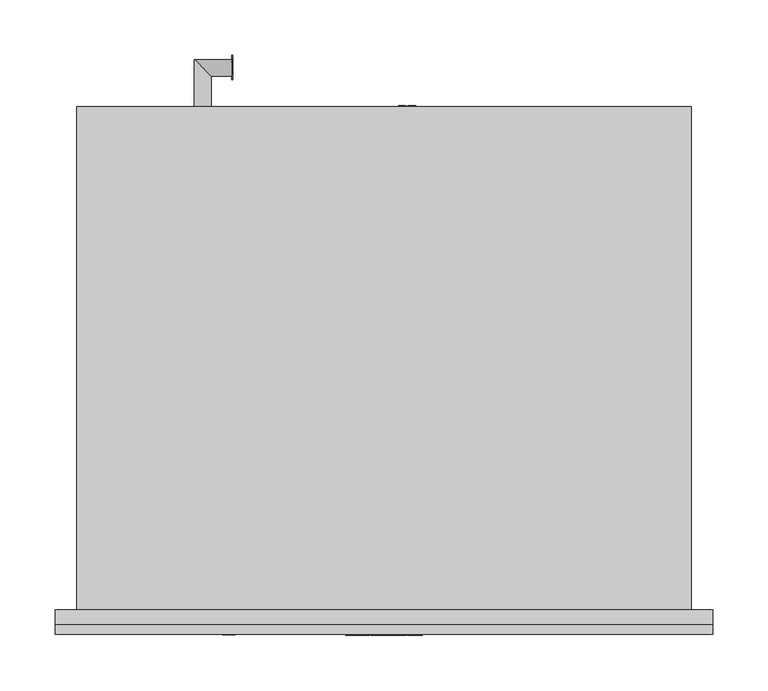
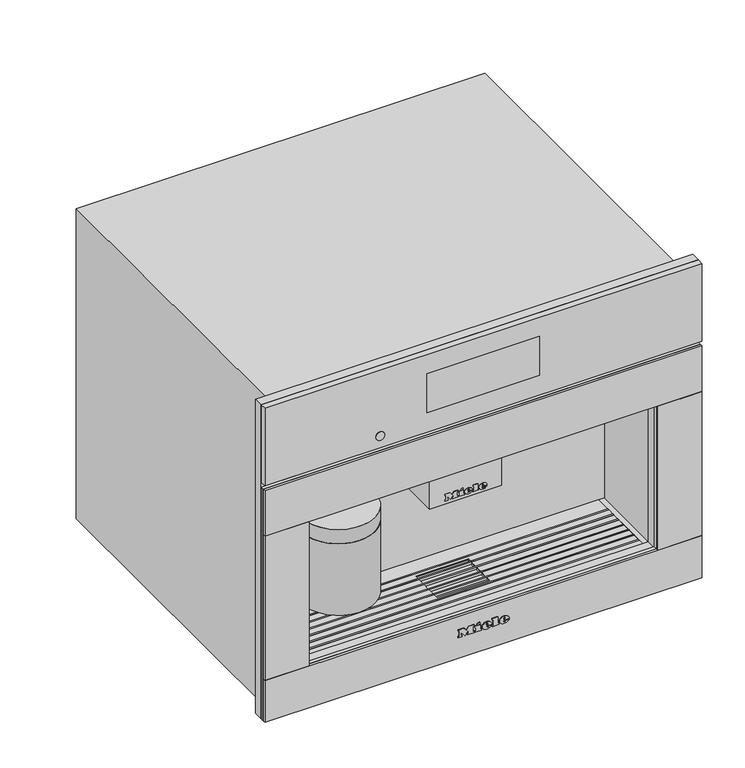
"""IFC4 building model written with IfcOpenShell, lengths in millimetres: proxy geometry, 11733910_CDN_CVA7845_GRGR : 29784530_CDN_11733910_CVA7845_GRGR."""

from ifc_helpers import new_model, si_unit, point, frame, frame_2d, origin, place, context, project, spatial, polyline, circle_curve, ellipse_curve, trimmed, segment, composite_curve, outline, extrude, faceted_brep, source, transform, mapped, element, save
from ifc_brep_helpers import plane_surface, cylinder_surface, revolved_surface, extruded_surface, advanced_brep


def specialty_equipment_ed553445(model_context):
    return source(origin(), model_context, "Body", "SolidModel", [
        extrude(outline(composite_curve([segment(trimmed(circle_curve(frame_2d((-14.0, 36.5)), 5.0), [point((-9.0, 36.5))], [point((-19.0, 36.5))], False, "CARTESIAN"), True, "CONTINUOUS"), segment(trimmed(circle_curve(frame_2d((-14.0, 36.5)), 5.0), [point((-19.0, 36.5))], [point((-9.0, 36.5))], False, "CARTESIAN"), True, "CONTINUOUS")], self_intersect=False)), frame((0.0, 0.0, 193.0), z_axis=(0.0, 0.0, 1.0), x_axis=(1.0, 0.0, 0.0)), (0.0, 0.0, 1.0), 5.0),
        extrude(outline(composite_curve([segment(trimmed(circle_curve(frame_2d((14.0, 36.5)), 5.0), [point((19.0, 36.5))], [point((9.0, 36.5))], False, "CARTESIAN"), True, "CONTINUOUS"), segment(trimmed(circle_curve(frame_2d((14.0, 36.5)), 5.0), [point((9.0, 36.5))], [point((19.0, 36.5))], False, "CARTESIAN"), True, "CONTINUOUS")], self_intersect=False)), frame((0.0, 0.0, 193.0), z_axis=(0.0, 0.0, 1.0), x_axis=(1.0, 0.0, 0.0)), (0.0, 0.0, 1.0), 5.0),
        extrude(outline(composite_curve([segment(trimmed(circle_curve(frame_2d((-156.5, 49.5)), 50.0), [point((-106.5, 49.5))], [point((-206.5, 49.5))], False, "CARTESIAN"), True, "CONTINUOUS"), segment(trimmed(circle_curve(frame_2d((-156.5, 49.5)), 50.0), [point((-206.5, 49.5))], [point((-106.5, 49.5))], False, "CARTESIAN"), True, "CONTINUOUS")], self_intersect=False)), frame((0.0, 0.0, 100.0), z_axis=(0.0, 0.0, 1.0), x_axis=(1.0, 0.0, 0.0)), (0.0, 0.0, 1.0), 103.0),
        extrude(outline(polyline([(-49.0, 95.0), (49.0, 95.0), (49.0, 20.0), (-49.0, 20.0), (-49.0, 95.0)])), frame((0.0, 0.0, 198.0), z_axis=(0.0, 0.0, 1.0), x_axis=(1.0, 0.0, 0.0)), (0.0, 0.0, 1.0), 75.0),
        extrude(outline(polyline([(455.5, 297.5), (455.5, -297.5), (4.0, -297.5), (4.0, 297.5), (455.5, 297.5)]), holes=[polyline([(273.0, 237.5), (63.0, 237.5), (63.0, -237.5), (273.0, -237.5), (273.0, 237.5)])]), frame((0.0, -13.0, 0.0), z_axis=(0.0, 1.0, 0.0), x_axis=(0.0, 0.0, 1.0)), (0.0, 0.0, 1.0), 13.0),
        extrude(outline(polyline([(480.48348, 22.0), (480.48348, 32.045631), (481.7391839, 32.045631), (481.7391839, 27.128275), (486.8895318, 32.045631), (488.6455552, 32.045631), (484.3217155, 27.9155425), (488.8025182, 22.0), (487.267224, 22.0), (483.4314411, 27.0669613), (481.7391839, 25.4531857), (481.7391839, 22.0), (480.48348, 22.0)])), frame((-138.0, 0.0, 0.0), z_axis=(1.0, 0.0, 0.0), x_axis=(0.0, 1.0, 0.0)), (0.0, 0.0, 1.0), 1.0),
        extrude(outline(polyline([(491.5420128, 22.0), (488.8025182, 32.045631), (490.0974628, 32.045631), (491.6867131, 25.4433755), (492.1772224, 23.4053092), (492.7020674, 25.207931), (494.6935352, 32.045631), (496.5599232, 32.045631), (498.0069257, 27.0890343), (499.0835937, 23.4053092), (499.5593878, 25.3845144), (501.1633533, 32.045631), (502.4582979, 32.045631), (499.7163507, 22.0), (498.3748077, 22.0), (495.9664069, 29.7500474), (495.630408, 30.8316204), (495.2527159, 29.5293182), (493.0576866, 22.0), (491.5420128, 22.0)])), frame((-138.0, 0.0, 0.0), z_axis=(1.0, 0.0, 0.0), x_axis=(0.0, 1.0, 0.0)), (0.0, 0.0, 1.0), 1.0),
        advanced_brep(
        [(-156.5, 456.0, 27.0), (-171.5, 456.0, 27.0), (-156.5, 483.5, 27.0), (-171.5, 498.5, 27.0), (-138.0, 483.5, 27.0), (-138.0, 498.5, 27.0)],
        [
            (0, 1, circle_curve(frame((-164.0, 456.0, 27.0), z_axis=(0.0, -1.0, 0.0), x_axis=(-1.0, 0.0, 0.0)), 7.5)),
            (1, 0, circle_curve(frame((-164.0, 456.0, 27.0), z_axis=(0.0, -1.0, 0.0), x_axis=(-1.0, 0.0, 0.0)), 7.5)),
            (0, 2),
            (2, 3, ellipse_curve(frame((-164.0, 491.0, 27.0), z_axis=(-0.707106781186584, -0.7071067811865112, 0.0), x_axis=(0.7071067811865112, -0.7071067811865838, 0.0)), 10.6066017, 7.5)),
            (3, 1),
            (3, 2, ellipse_curve(frame((-164.0, 491.0, 27.0), z_axis=(-0.707106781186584, -0.7071067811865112, 0.0), x_axis=(0.7071067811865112, -0.7071067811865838, 0.0)), 10.6066017, 7.5)),
            (4, 5, circle_curve(frame((-138.0, 491.0, 27.0), z_axis=(1.0, 0.0, 0.0), x_axis=(0.0, 1.0, 0.0)), 7.5)),
            (5, 4, circle_curve(frame((-138.0, 491.0, 27.0), z_axis=(1.0, 0.0, 0.0), x_axis=(0.0, 1.0, 0.0)), 7.5)),
            (2, 4),
            (5, 3),
        ],
        [
            plane_surface(frame((-164.0, 456.0, 27.0), z_axis=(0.0, -1.0, 0.0), x_axis=(0.0, 0.0, 1.0))),
            cylinder_surface(frame((-164.0, 456.0, 27.0), z_axis=(0.0, -1.0, 0.0), x_axis=(-1.0, 0.0, 0.0)), 7.5),
            plane_surface(frame((-138.0, 491.0, 27.0), z_axis=(1.0, 0.0, 0.0), x_axis=(0.0, 0.0, 1.0))),
            cylinder_surface(frame((-164.0, 491.0, 27.0), z_axis=(-1.0, 0.0, 0.0), x_axis=(0.0, 1.0, 0.0)), 7.5),
        ],
        [
            (0, [[1, 2]]),
            (1, [[-1, 3, 4, 5]]),
            (1, [[-2, -5, 6, -3]]),
            (2, [[7, 8]]),
            (3, [[-4, 9, -8, 10]]),
            (3, [[-6, -10, -7, -9]]),
        ],
    ),
        extrude(outline(polyline([(97.0, 28.8772152), (107.045631, 28.8772152), (107.045631, 21.6569179), (105.7899271, 21.6569179), (105.7899271, 27.6215114), (102.8076304, 27.6215114), (102.8076304, 21.9708439), (101.5519266, 21.9708439), (101.5519266, 27.6215114), (98.2557039, 27.6215114), (98.2557039, 21.499955), (97.0, 21.499955), (97.0, 28.8772152)])), frame((0.0, 456.0, 0.0), z_axis=(0.0, 1.0, 0.0), x_axis=(0.0, 0.0, 1.0)), (0.0, 0.0, 1.0), 1.0),
        extrude(outline(polyline([(97.0, 19.6163991), (107.045631, 19.6163991), (107.045631, 18.3606953), (98.2557039, 18.3606953), (98.2557039, 13.3378798), (97.0, 13.3378798), (97.0, 19.6163991)])), frame((0.0, 456.0, 0.0), z_axis=(0.0, 1.0, 0.0), x_axis=(0.0, 0.0, 1.0)), (0.0, 0.0, 1.0), 1.0),
        advanced_brep(
        [(55.0, 425.5, 102.0), (55.0, 410.5, 102.0), (28.5, 425.5, 102.0), (13.5, 410.5, 102.0), (28.5, 456.0, 102.0), (13.5, 456.0, 102.0)],
        [
            (0, 1, circle_curve(frame((55.0, 418.0, 102.0), z_axis=(1.0, 0.0, 0.0), x_axis=(0.0, -1.0, 0.0)), 7.5)),
            (1, 0, circle_curve(frame((55.0, 418.0, 102.0), z_axis=(1.0, 0.0, 0.0), x_axis=(0.0, -1.0, 0.0)), 7.5)),
            (0, 2),
            (2, 3, ellipse_curve(frame((21.0, 418.0, 102.0), z_axis=(0.7071067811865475, -0.7071067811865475, 0.0), x_axis=(0.7071067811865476, 0.7071067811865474, 0.0)), 10.6066017, 7.5)),
            (3, 1),
            (3, 2, ellipse_curve(frame((21.0, 418.0, 102.0), z_axis=(0.7071067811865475, -0.7071067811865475, 0.0), x_axis=(0.7071067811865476, 0.7071067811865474, 0.0)), 10.6066017, 7.5)),
            (4, 5, circle_curve(frame((21.0, 456.0, 102.0), z_axis=(0.0, 1.0, 0.0), x_axis=(-1.0, 0.0, 0.0)), 7.5)),
            (5, 4, circle_curve(frame((21.0, 456.0, 102.0), z_axis=(0.0, 1.0, 0.0), x_axis=(-1.0, 0.0, 0.0)), 7.5)),
            (2, 4),
            (5, 3),
        ],
        [
            plane_surface(frame((55.0, 418.0, 102.0), z_axis=(1.0, 0.0, 0.0), x_axis=(0.0, 0.0, 1.0))),
            cylinder_surface(frame((55.0, 418.0, 102.0), z_axis=(1.0, 0.0, 0.0), x_axis=(0.0, -1.0, 0.0)), 7.5),
            plane_surface(frame((21.0, 456.0, 102.0), z_axis=(0.0, 1.0, 0.0), x_axis=(0.0, 0.0, 1.0))),
            cylinder_surface(frame((21.0, 418.0, 102.0), z_axis=(0.0, -1.0, 0.0), x_axis=(-1.0, 0.0, 0.0)), 7.5),
        ],
        [
            (0, [[1, 2]]),
            (1, [[-1, 3, 4, 5]]),
            (1, [[-2, -5, 6, -3]]),
            (2, [[7, 8]]),
            (3, [[-4, 9, -8, 10]]),
            (3, [[-6, -10, -7, -9]]),
        ],
    ),
        advanced_brep(
        [(-110.0, 49.5, 252.0), (-203.0, 49.5, 252.0), (-206.5, 49.5, 223.5), (-106.5, 49.5, 223.5), (-110.0, 49.5, 273.0), (-203.0, 49.5, 273.0), (-156.5, 49.5, 273.0), (-106.5, 49.5, 203.0), (-206.5, 49.5, 203.0), (-156.5, 49.5, 203.0)],
        [
            (0, 1, circle_curve(frame((-156.5, 49.5, 252.0), z_axis=(0.0, 0.0, -1.0), x_axis=(-1.0, 0.0, 0.0)), 46.5)),
            (1, 2, circle_curve(frame((-206.7961166, 49.5, 238.0012775), z_axis=(0.0, 1.0, 0.0), x_axis=(-1.0, 0.0, 0.0)), 14.5043005)),
            (2, 3, circle_curve(frame((-156.5, 49.5, 223.5), z_axis=(0.0, 0.0, 1.0), x_axis=(-1.0, 0.0, 0.0)), 50.0)),
            (3, 0, circle_curve(frame((-106.2038834, 49.5, 238.0012775), z_axis=(0.0, 1.0, 0.0), x_axis=(1.0, 0.0, 0.0)), 14.5043005)),
            (4, 5, circle_curve(frame((-156.5, 49.5, 273.0), z_axis=(0.0, 0.0, -1.0), x_axis=(-1.0, 0.0, 0.0)), 46.5)),
            (5, 1),
            (0, 4),
            (6, 4),
            (4, 5, circle_curve(frame((-156.5, 49.5, 273.0), z_axis=(0.0, 0.0, 1.0), x_axis=(-1.0, 0.0, 0.0)), 46.5)),
            (5, 6),
            (7, 8, circle_curve(frame((-156.5, 49.5, 203.0), z_axis=(0.0, 0.0, -1.0), x_axis=(-1.0, 0.0, 0.0)), 50.0)),
            (8, 9),
            (9, 7),
            (8, 7, circle_curve(frame((-156.5, 49.5, 203.0), z_axis=(0.0, 0.0, -1.0), x_axis=(-1.0, 0.0, 0.0)), 50.0)),
            (2, 8),
            (7, 3),
            (2, 3, circle_curve(frame((-156.5, 49.5, 223.5), z_axis=(0.0, 0.0, -1.0), x_axis=(-1.0, 0.0, 0.0)), 50.0)),
            (1, 0, circle_curve(frame((-156.5, 49.5, 252.0), z_axis=(0.0, 0.0, -1.0), x_axis=(-1.0, 0.0, 0.0)), 46.5)),
        ],
        [
            revolved_surface(trimmed(ellipse_curve(frame((-206.7961166, 49.5, 238.0012775), z_axis=(0.0, -1.0, 0.0), x_axis=(-1.0, 0.0, 0.0)), 14.5043005, 14.5043005), [point((-206.5, 49.5, 223.5))], [point((-203.0, 49.5, 252.0))], True, "CARTESIAN"), (-156.5, 49.5, 388.7361736), (0.0, 0.0, 1.0)),
            cylinder_surface(frame((-156.5, 49.5, 388.7361736), z_axis=(0.0, 0.0, 1.0), x_axis=(-1.0, 0.0, 0.0)), 46.5),
            plane_surface(frame((-156.5, 49.5, 273.0), z_axis=(0.0, 0.0, 1.0), x_axis=(-1.0, 0.0, 0.0))),
            plane_surface(frame((-156.5, 49.5, 203.0), z_axis=(0.0, 0.0, -1.0), x_axis=(-1.0, 0.0, 0.0))),
            cylinder_surface(frame((-156.5, 49.5, 388.7361736), z_axis=(0.0, 0.0, 1.0), x_axis=(-1.0, 0.0, 0.0)), 50.0),
        ],
        [
            (0, [[1, 2, 3, 4]]),
            (1, [[5, 6, -1, 7]]),
            (2, [[8, 9, 10]]),
            (3, [[11, 12, 13]]),
            (3, [[14, -13, -12]]),
            (4, [[-3, 15, -11, 16]]),
            (4, [[17, -16, -14, -15]]),
            (0, [[18, -4, -17, -2]]),
            (1, [[-9, -7, -18, -6]]),
            (2, [[-10, -5, -8]]),
        ],
    ),
        faceted_brep([(229.5, 82.0925571, 60.0), (229.5, 80.0925571, 60.0), (-229.5, 80.0925571, 60.0), (-229.5, 82.0925571, 60.0), (229.5, 70.0550731, 60.0), (229.5, 68.0550731, 60.0), (-229.5, 68.0550731, 60.0), (-229.5, 70.0550731, 60.0), (229.5, 58.0175891, 60.0), (229.5, 56.0175891, 60.0), (-229.5, 56.0175891, 60.0), (-229.5, 58.0175891, 60.0), (229.5, 45.9801052, 60.0), (229.5, 43.9801052, 60.0), (-229.5, 43.9801052, 60.0), (-229.5, 45.9801052, 60.0), (229.5, 33.9426212, 60.0), (229.5, 31.9426212, 60.0), (-229.5, 31.9426212, 60.0), (-229.5, 33.9426212, 60.0), (229.5, 21.9776522, 60.0), (229.5, 19.9776522, 60.0), (-229.5, 19.9776522, 60.0), (-229.5, 21.9776522, 60.0), (229.5, 10.0, 60.0), (229.5, 8.0, 60.0), (-229.5, 8.0, 60.0), (-229.5, 10.0, 60.0), (-229.5, 45.9801052, 62.0), (-36.0, 45.9801052, 62.0), (-36.0, 45.9801052, 63.0), (-229.5, 45.9801052, 63.0), (-229.5, 45.9801052, 63.5), (229.5, 45.9801052, 63.5), (229.5, 45.9801052, 63.0), (36.0, 45.9801052, 63.0), (36.0, 45.9801052, 62.0), (229.5, 45.9801052, 62.0), (229.5, 19.9776522, 62.0), (229.5, 10.0, 62.0), (-229.5, 10.0, 62.0), (-229.5, 19.9776522, 62.0), (229.5, 43.9801052, 62.0), (229.5, 33.9426212, 62.0), (36.0, 33.9426212, 62.0), (36.0, 43.9801052, 62.0), (229.5, 56.0175891, 62.0), (36.0, 56.0175891, 62.0), (229.5, 68.0550731, 62.0), (229.5, 58.0175891, 62.0), (36.0, 58.0175891, 62.0), (36.0, 68.0550731, 62.0), (-229.5, 33.9426212, 62.0), (-229.5, 43.9801052, 62.0), (-36.0, 43.9801052, 62.0), (-36.0, 33.9426212, 62.0), (-229.5, 56.0175891, 62.0), (-36.0, 56.0175891, 62.0), (-229.5, 58.0175891, 62.0), (-229.5, 68.0550731, 62.0), (-36.0, 68.0550731, 62.0), (-36.0, 58.0175891, 62.0), (-229.5, 104.5, 62.0), (229.5, 104.5, 62.0), (229.5, 82.0925571, 62.0), (-229.5, 82.0925571, 62.0), (36.0, 76.0, 62.0), (-36.0, 76.0, 62.0), (-36.0, 70.0550731, 62.0), (-229.5, 70.0550731, 62.0), (-229.5, 80.0925571, 62.0), (229.5, 80.0925571, 62.0), (229.5, 70.0550731, 62.0), (36.0, 70.0550731, 62.0), (229.5, 0.0, 62.0), (-229.5, 0.0, 62.0), (-229.5, 8.0, 62.0), (229.5, 8.0, 62.0), (-36.0, 25.0, 62.0), (36.0, 25.0, 62.0), (36.0, 31.9426212, 62.0), (229.5, 31.9426212, 62.0), (229.5, 21.9776522, 62.0), (-229.5, 21.9776522, 62.0), (-229.5, 31.9426212, 62.0), (-36.0, 31.9426212, 62.0), (229.5, 104.5, 63.0), (-229.5, 104.5, 63.0), (-229.5, 82.0925571, 63.0), (229.5, 82.0925571, 63.0), (-229.5, 0.0, 63.0), (229.5, 0.0, 63.0), (229.5, 8.0, 63.0), (-229.5, 8.0, 63.0), (-36.0, 76.0, 63.0), (36.0, 76.0, 63.0), (36.0, 70.0550731, 63.0), (229.5, 70.0550731, 63.0), (229.5, 80.0925571, 63.0), (-229.5, 80.0925571, 63.0), (-229.5, 70.0550731, 63.0), (-36.0, 70.0550731, 63.0), (36.0, 25.0, 63.0), (-36.0, 25.0, 63.0), (-36.0, 31.9426212, 63.0), (-229.5, 31.9426212, 63.0), (-229.5, 21.9776522, 63.0), (229.5, 21.9776522, 63.0), (229.5, 31.9426212, 63.0), (36.0, 31.9426212, 63.0), (-229.5, 19.9776522, 63.0), (-229.5, 10.0, 63.0), (229.5, 10.0, 63.0), (229.5, 19.9776522, 63.0), (-229.5, 43.9801052, 63.0), (-229.5, 33.9426212, 63.0), (-36.0, 33.9426212, 63.0), (-36.0, 43.9801052, 63.0), (-229.5, 56.0175891, 63.0), (-36.0, 56.0175891, 63.0), (-229.5, 68.0550731, 63.0), (-229.5, 58.0175891, 63.0), (-36.0, 58.0175891, 63.0), (-36.0, 68.0550731, 63.0), (229.5, 33.9426212, 63.0), (229.5, 43.9801052, 63.0), (36.0, 43.9801052, 63.0), (36.0, 33.9426212, 63.0), (229.5, 56.0175891, 63.0), (36.0, 56.0175891, 63.0), (229.5, 58.0175891, 63.0), (229.5, 68.0550731, 63.0), (36.0, 68.0550731, 63.0), (36.0, 58.0175891, 63.0), (-229.5, 8.0, 63.5), (-229.5, 10.0, 63.5), (-229.5, 19.9776522, 63.5), (-229.5, 21.9776522, 63.5), (-229.5, 31.9426212, 63.5), (-229.5, 33.9426212, 63.5), (-229.5, 43.9801052, 63.5), (-229.5, 56.0175891, 63.5), (-229.5, 58.0175891, 63.5), (-229.5, 68.0550731, 63.5), (-229.5, 70.0550731, 63.5), (-229.5, 80.0925571, 63.5), (-229.5, 82.0925571, 63.5), (229.5, 82.0925571, 63.5), (229.5, 80.0925571, 63.5), (229.5, 70.0550731, 63.5), (229.5, 68.0550731, 63.5), (229.5, 58.0175891, 63.5), (229.5, 56.0175891, 63.5), (229.5, 43.9801052, 63.5), (229.5, 33.9426212, 63.5), (229.5, 31.9426212, 63.5), (229.5, 21.9776522, 63.5), (229.5, 19.9776522, 63.5), (229.5, 10.0, 63.5), (229.5, 8.0, 63.5)], [[[0, 1, 2, 3]], [[4, 5, 6, 7]], [[8, 9, 10, 11]], [[12, 13, 14, 15]], [[16, 17, 18, 19]], [[20, 21, 22, 23]], [[24, 25, 26, 27]], [[12, 15, 28, 29, 30, 31, 32, 33, 34, 35, 36, 37]], [[38, 39, 40, 41]], [[42, 43, 44, 45]], [[46, 37, 36, 47]], [[48, 49, 50, 51]], [[52, 53, 54, 55]], [[28, 56, 57, 29]], [[58, 59, 60, 61]], [[62, 63, 64, 65]], [[66, 67, 68, 69, 70, 71, 72, 73]], [[74, 75, 76, 77]], [[78, 79, 80, 81, 82, 83, 84, 85]], [[86, 87, 88, 89]], [[90, 91, 92, 93]], [[94, 95, 96, 97, 98, 99, 100, 101]], [[102, 103, 104, 105, 106, 107, 108, 109]], [[110, 111, 112, 113]], [[114, 115, 116, 117]], [[118, 31, 30, 119]], [[120, 121, 122, 123]], [[124, 125, 126, 127]], [[34, 128, 129, 35]], [[130, 131, 132, 133]], [[63, 62, 87, 86]], [[87, 62, 65, 3, 2, 70, 69, 7, 6, 59, 58, 11, 10, 56, 28, 15, 14, 53, 52, 19, 18, 84, 83, 23, 22, 41, 40, 27, 26, 76, 75, 90, 93, 134, 135, 111, 110, 136, 137, 106, 105, 138, 139, 115, 114, 140, 32, 31, 118, 141, 142, 121, 120, 143, 144, 100, 99, 145, 146, 88]], [[75, 74, 91, 90]], [[63, 86, 89, 147, 148, 98, 97, 149, 150, 131, 130, 151, 152, 128, 34, 33, 153, 125, 124, 154, 155, 108, 107, 156, 157, 113, 112, 158, 159, 92, 91, 74, 77, 25, 24, 39, 38, 21, 20, 82, 81, 17, 16, 43, 42, 13, 12, 37, 46, 9, 8, 49, 48, 5, 4, 72, 71, 1, 0, 64]], [[66, 95, 94, 67]], [[55, 54, 117, 116]], [[29, 57, 119, 30]], [[61, 60, 123, 122]], [[67, 94, 101, 68]], [[103, 78, 85, 104]], [[78, 103, 102, 79]], [[45, 44, 127, 126]], [[47, 36, 35, 129]], [[51, 50, 133, 132]], [[95, 66, 73, 96]], [[79, 102, 109, 80]], [[158, 135, 134, 159]], [[156, 137, 136, 157]], [[154, 139, 138, 155]], [[33, 32, 140, 153]], [[151, 142, 141, 152]], [[149, 144, 143, 150]], [[147, 146, 145, 148]], [[24, 27, 40, 39]], [[135, 158, 112, 111]], [[26, 25, 77, 76]], [[159, 134, 93, 92]], [[20, 23, 83, 82]], [[137, 156, 107, 106]], [[22, 21, 38, 41]], [[157, 136, 110, 113]], [[16, 19, 52, 55, 116, 115, 139, 154, 124, 127, 44, 43]], [[18, 17, 81, 80, 109, 108, 155, 138, 105, 104, 85, 84]], [[14, 13, 42, 45, 126, 125, 153, 140, 114, 117, 54, 53]], [[8, 11, 58, 61, 122, 121, 142, 151, 130, 133, 50, 49]], [[10, 9, 46, 47, 129, 128, 152, 141, 118, 119, 57, 56]], [[4, 7, 69, 68, 101, 100, 144, 149, 97, 96, 73, 72]], [[6, 5, 48, 51, 132, 131, 150, 143, 120, 123, 60, 59]], [[0, 3, 65, 64]], [[146, 147, 89, 88]], [[2, 1, 71, 70]], [[148, 145, 99, 98]]]),
        faceted_brep([(-278.0, 456.0, 0.0), (-278.0, 0.0, 0.0), (-278.0, 0.0, 446.0), (-278.0, 456.0, 446.0), (278.0, 456.0, 0.0), (278.0, 456.0, 446.0), (278.0, 0.0, 446.0), (278.0, 0.0, 0.0), (55.0, 456.0, 133.0), (-22.0, 456.0, 133.0), (-22.0, 456.0, 89.0), (35.0, 456.0, 66.0), (55.0, 456.0, 66.0), (-36.0, 76.0, 58.0), (36.0, 76.0, 58.0), (36.0, 76.0, 62.0), (-36.0, 76.0, 62.0), (36.0, 25.0, 58.0), (-36.0, 25.0, 58.0), (-36.0, 25.0, 62.0), (36.0, 25.0, 62.0), (237.5, 0.0, 273.0), (237.5, 0.0, 63.0), (229.5, 0.0, 63.0), (229.5, 0.0, 62.0), (-229.5, 0.0, 62.0), (-229.5, 0.0, 63.0), (-237.5, 0.0, 63.0), (-237.5, 0.0, 273.0), (237.5, 104.5, 273.0), (-237.5, 104.5, 273.0), (-237.5, 104.5, 63.0), (-229.5, 104.5, 63.0), (-229.5, 104.5, 62.0), (229.5, 104.5, 62.0), (229.5, 104.5, 63.0), (237.5, 104.5, 63.0), (-22.0, 400.0, 133.0), (55.0, 400.0, 133.0), (55.0, 400.0, 66.0), (35.0, 400.0, 66.0), (-22.0, 400.0, 89.0)], [[[0, 1, 2, 3]], [[4, 5, 6, 7]], [[0, 3, 5, 4], [8, 9, 10, 11, 12]], [[13, 14, 15, 16]], [[17, 18, 19, 20]], [[3, 2, 6, 5]], [[2, 1, 7, 6], [21, 22, 23, 24, 25, 26, 27, 28]], [[1, 0, 4, 7]], [[29, 30, 31, 32, 33, 34, 35, 36]], [[29, 36, 22, 21]], [[22, 36, 35, 23]], [[31, 27, 26, 32]], [[31, 30, 28, 27]], [[30, 29, 21, 28]], [[34, 33, 25, 24], [16, 15, 20, 19]], [[25, 33, 32, 26]], [[34, 24, 23, 35]], [[14, 13, 18, 17]], [[18, 13, 16, 19]], [[14, 17, 20, 15]], [[37, 38, 39, 40, 41]], [[38, 37, 9, 8]], [[39, 38, 8, 12]], [[40, 39, 12, 11]], [[41, 40, 11, 10]], [[37, 41, 10, 9]]]),
        advanced_brep(
        [(27.088, -23.0, 36.7018), (27.088, -23.0, 37.8532), (34.7146, -23.0, 37.8532), (21.445, -23.0, 37.8532), (24.58, -23.0, 34.0), (34.5208, -23.0, 36.7018), (31.078, -23.0, 36.7018), (28.3648, -23.0, 35.425), (27.088, -23.0, 39.3124), (27.088, -23.0, 40.555), (29.0374, -23.0, 40.555), (29.0374, -23.0, 39.3124), (27.088, -22.0, 36.7018), (28.3648, -22.0, 35.425), (31.078, -22.0, 36.7018), (34.5208, -22.0, 36.7018), (24.58, -22.0, 34.0), (21.445, -22.0, 37.8532), (34.7146, -22.0, 37.8532), (27.088, -22.0, 37.8532), (27.088, -22.0, 39.3124), (29.0374, -22.0, 39.3124), (29.0374, -22.0, 40.555), (27.088, -22.0, 40.555)],
        [
            (0, 1),
            (1, 2),
            (2, 3, ellipse_curve(frame((28.0798, -23.0, 37.8532), z_axis=(0.0, -1.0, 0.0), x_axis=(-1.0, 0.0, 0.0)), 6.6348, 5.4834)),
            (3, 4, circle_curve(frame((25.8568622, -23.0, 38.2408), z_axis=(0.0, -1.0, 0.0), x_axis=(0.0, 0.0, -1.0)), 4.4288556)),
            (4, 5, circle_curve(frame((27.9469808, -23.0, 41.2504), z_axis=(0.0, -1.0, 0.0), x_axis=(0.0, 0.0, -1.0)), 7.9940516)),
            (5, 6),
            (6, 7, circle_curve(frame((28.9220588, -23.0, 37.762), z_axis=(0.0, 1.0, 0.0), x_axis=(0.0, 0.0, -1.0)), 2.4025208)),
            (7, 0, circle_curve(frame((28.3648, -23.0, 36.7018), z_axis=(0.0, 1.0, 0.0), x_axis=(0.0, 0.0, -1.0)), 1.2768)),
            (8, 9),
            (9, 10, circle_curve(frame((28.0627, -23.0, 40.555), z_axis=(0.0, 1.0, 0.0), x_axis=(0.0, 0.0, -1.0)), 0.9747)),
            (10, 11),
            (11, 8),
            (12, 13, circle_curve(frame((28.3648, -22.0, 36.7018), z_axis=(0.0, -1.0, 0.0), x_axis=(0.0, 0.0, -1.0)), 1.2768)),
            (13, 14, circle_curve(frame((28.9220588, -22.0, 37.762), z_axis=(0.0, -1.0, 0.0), x_axis=(0.0, 0.0, -1.0)), 2.4025208)),
            (14, 15),
            (15, 16, circle_curve(frame((27.9469808, -22.0, 41.2504), z_axis=(0.0, 1.0, 0.0), x_axis=(0.0, 0.0, -1.0)), 7.9940516)),
            (16, 17, circle_curve(frame((25.8568622, -22.0, 38.2408), z_axis=(0.0, 1.0, 0.0), x_axis=(0.0, 0.0, -1.0)), 4.4288556)),
            (17, 18, ellipse_curve(frame((28.0798, -22.0, 37.8532), z_axis=(0.0, 1.0, 0.0), x_axis=(-1.0, 0.0, 0.0)), 6.6348, 5.4834)),
            (18, 19),
            (19, 12),
            (20, 21),
            (21, 22),
            (22, 23, circle_curve(frame((28.0627, -22.0, 40.555), z_axis=(0.0, -1.0, 0.0), x_axis=(0.0, 0.0, -1.0)), 0.9747)),
            (23, 20),
            (0, 12),
            (19, 1),
            (18, 2),
            (5, 15),
            (14, 6),
            (17, 3),
            (13, 7),
            (16, 4),
            (8, 20),
            (23, 9),
            (22, 10),
            (21, 11),
        ],
        [
            plane_surface(frame((27.088, -23.0, 37.8532), z_axis=(0.0, -1.0, 0.0), x_axis=(0.0, 0.0, 1.0))),
            plane_surface(frame((27.088, -22.0, 37.8532), z_axis=(0.0, 1.0, 0.0), x_axis=(0.0, 0.0, -1.0))),
            plane_surface(frame((27.088, -23.0, 36.7018), z_axis=(1.0, 0.0, 0.0), x_axis=(0.0, 1.0, 0.0))),
            plane_surface(frame((27.088, -23.0, 37.8532), z_axis=(0.0, 0.0, -1.0), x_axis=(0.0, 1.0, 0.0))),
            plane_surface(frame((34.5208, -23.0, 36.7018), z_axis=(0.0, 0.0, 1.0), x_axis=(0.0, 1.0, 0.0))),
            extruded_surface(trimmed(ellipse_curve(frame((28.0798, -21.0, 37.8532), z_axis=(0.0, -1.0, 0.0), x_axis=(-1.0, 0.0, 0.0)), 6.6348, 5.4834), [point((34.7146, -21.0, 37.8532))], [point((21.445, -21.0, 37.8532))], True, "CARTESIAN"), (0.0, -1.0, 0.0), 1.0),
            revolved_surface(polyline([(28.9220588, -22.0, 35.3594792), (28.9220588, -23.0, 35.3594792)]), (28.9220588, -22.0, 37.762), (0.0, 1.0, 0.0)),
            revolved_surface(polyline([(28.3648, -22.0, 35.425), (28.3648, -23.0, 35.425)]), (28.3648, -22.0, 36.7018), (0.0, 1.0, 0.0)),
            cylinder_surface(frame((25.8568622, -22.0, 38.2408), z_axis=(0.0, -1.0, 0.0), x_axis=(0.0, 0.0, -1.0)), 4.4288556),
            cylinder_surface(frame((27.9469808, -22.0, 41.2504), z_axis=(0.0, -1.0, 0.0), x_axis=(0.0, 0.0, -1.0)), 7.9940516),
            plane_surface(frame((27.088, -23.0, 39.3124), z_axis=(1.0, 0.0, 0.0), x_axis=(0.0, 1.0, 0.0))),
            revolved_surface(polyline([(28.0627, -22.0, 39.5803), (28.0627, -23.0, 39.5803)]), (28.0627, -22.0, 40.555), (0.0, 1.0, 0.0)),
            plane_surface(frame((29.0374, -23.0, 40.555), z_axis=(-1.0, 0.0, 0.0), x_axis=(0.0, 1.0, 0.0))),
            plane_surface(frame((29.0374, -23.0, 39.3124), z_axis=(0.0, 0.0, 1.0), x_axis=(0.0, 1.0, 0.0))),
        ],
        [
            (0, [[1, 2, 3, 4, 5, 6, 7, 8], [9, 10, 11, 12]]),
            (1, [[13, 14, 15, 16, 17, 18, 19, 20], [21, 22, 23, 24]]),
            (2, [[-1, 25, -20, 26]]),
            (3, [[-2, -26, -19, 27]]),
            (4, [[-6, 28, -15, 29]]),
            (5, [[-3, -27, -18, 30]]),
            (6, [[-7, -29, -14, 31]]),
            (7, [[-8, -31, -13, -25]]),
            (8, [[-4, -30, -17, 32]]),
            (9, [[-5, -32, -16, -28]]),
            (10, [[-9, 33, -24, 34]]),
            (11, [[-10, -34, -23, 35]]),
            (12, [[-11, -35, -22, 36]]),
            (13, [[-12, -36, -21, -33]]),
        ],
    ),
        advanced_brep(
        [(3.2962, -23.0, 36.7018), (3.2962, -23.0, 37.8532), (10.9228, -23.0, 37.8532), (-2.3468, -23.0, 37.8532), (0.7882, -23.0, 34.0), (10.729, -23.0, 36.7018), (7.2862, -23.0, 36.7018), (4.573, -23.0, 35.425), (3.2962, -23.0, 39.3124), (3.2962, -23.0, 40.555), (5.2456, -23.0, 40.555), (5.2456, -23.0, 39.3124), (3.2962, -22.0, 36.7018), (4.573, -22.0, 35.425), (7.2862, -22.0, 36.7018), (10.729, -22.0, 36.7018), (0.7882, -22.0, 34.0), (-2.3468, -22.0, 37.8532), (10.9228, -22.0, 37.8532), (3.2962, -22.0, 37.8532), (3.2962, -22.0, 39.3124), (5.2456, -22.0, 39.3124), (5.2456, -22.0, 40.555), (3.2962, -22.0, 40.555)],
        [
            (0, 1),
            (1, 2),
            (2, 3, ellipse_curve(frame((4.288, -23.0, 37.8532), z_axis=(0.0, -1.0, 0.0), x_axis=(-1.0, 0.0, 0.0)), 6.6348, 5.4834)),
            (3, 4, circle_curve(frame((2.0650622, -23.0, 38.2408), z_axis=(0.0, -1.0, 0.0), x_axis=(0.0, 0.0, -1.0)), 4.4288556)),
            (4, 5, circle_curve(frame((4.1551808, -23.0, 41.2504), z_axis=(0.0, -1.0, 0.0), x_axis=(0.0, 0.0, -1.0)), 7.9940516)),
            (5, 6),
            (6, 7, circle_curve(frame((5.1302588, -23.0, 37.762), z_axis=(0.0, 1.0, 0.0), x_axis=(0.0, 0.0, -1.0)), 2.4025208)),
            (7, 0, circle_curve(frame((4.573, -23.0, 36.7018), z_axis=(0.0, 1.0, 0.0), x_axis=(0.0, 0.0, -1.0)), 1.2768)),
            (8, 9),
            (9, 10, circle_curve(frame((4.2709, -23.0, 40.555), z_axis=(0.0, 1.0, 0.0), x_axis=(0.0, 0.0, -1.0)), 0.9747)),
            (10, 11),
            (11, 8),
            (12, 13, circle_curve(frame((4.573, -22.0, 36.7018), z_axis=(0.0, -1.0, 0.0), x_axis=(0.0, 0.0, -1.0)), 1.2768)),
            (13, 14, circle_curve(frame((5.1302588, -22.0, 37.762), z_axis=(0.0, -1.0, 0.0), x_axis=(0.0, 0.0, -1.0)), 2.4025208)),
            (14, 15),
            (15, 16, circle_curve(frame((4.1551808, -22.0, 41.2504), z_axis=(0.0, 1.0, 0.0), x_axis=(0.0, 0.0, -1.0)), 7.9940516)),
            (16, 17, circle_curve(frame((2.0650622, -22.0, 38.2408), z_axis=(0.0, 1.0, 0.0), x_axis=(0.0, 0.0, -1.0)), 4.4288556)),
            (17, 18, ellipse_curve(frame((4.288, -22.0, 37.8532), z_axis=(0.0, 1.0, 0.0), x_axis=(-1.0, 0.0, 0.0)), 6.6348, 5.4834)),
            (18, 19),
            (19, 12),
            (20, 21),
            (21, 22),
            (22, 23, circle_curve(frame((4.2709, -22.0, 40.555), z_axis=(0.0, -1.0, 0.0), x_axis=(0.0, 0.0, -1.0)), 0.9747)),
            (23, 20),
            (0, 12),
            (19, 1),
            (18, 2),
            (5, 15),
            (14, 6),
            (17, 3),
            (13, 7),
            (16, 4),
            (8, 20),
            (23, 9),
            (22, 10),
            (21, 11),
        ],
        [
            plane_surface(frame((3.2962, -23.0, 37.8532), z_axis=(0.0, -1.0, 0.0), x_axis=(0.0, 0.0, 1.0))),
            plane_surface(frame((3.2962, -22.0, 37.8532), z_axis=(0.0, 1.0, 0.0), x_axis=(0.0, 0.0, -1.0))),
            plane_surface(frame((3.2962, -23.0, 36.7018), z_axis=(1.0, 0.0, 0.0), x_axis=(0.0, 1.0, 0.0))),
            plane_surface(frame((3.2962, -23.0, 37.8532), z_axis=(0.0, 0.0, -1.0), x_axis=(0.0, 1.0, 0.0))),
            plane_surface(frame((10.729, -23.0, 36.7018), z_axis=(0.0, 0.0, 1.0), x_axis=(0.0, 1.0, 0.0))),
            extruded_surface(trimmed(ellipse_curve(frame((4.288, -21.0, 37.8532), z_axis=(0.0, -1.0, 0.0), x_axis=(-1.0, 0.0, 0.0)), 6.6348, 5.4834), [point((10.9228, -21.0, 37.8532))], [point((-2.3468, -21.0, 37.8532))], True, "CARTESIAN"), (0.0, -1.0, 0.0), 1.0),
            revolved_surface(polyline([(5.1302588, -22.0, 35.3594792), (5.1302588, -23.0, 35.3594792)]), (5.1302588, -22.0, 37.762), (0.0, 1.0, 0.0)),
            revolved_surface(polyline([(4.573, -22.0, 35.425), (4.573, -23.0, 35.425)]), (4.573, -22.0, 36.7018), (0.0, 1.0, 0.0)),
            cylinder_surface(frame((2.0650622, -22.0, 38.2408), z_axis=(0.0, -1.0, 0.0), x_axis=(0.0, 0.0, -1.0)), 4.4288556),
            cylinder_surface(frame((4.1551808, -22.0, 41.2504), z_axis=(0.0, -1.0, 0.0), x_axis=(0.0, 0.0, -1.0)), 7.9940516),
            plane_surface(frame((3.2962, -23.0, 39.3124), z_axis=(1.0, 0.0, 0.0), x_axis=(0.0, 1.0, 0.0))),
            revolved_surface(polyline([(4.2709, -22.0, 39.5803), (4.2709, -23.0, 39.5803)]), (4.2709, -22.0, 40.555), (0.0, 1.0, 0.0)),
            plane_surface(frame((5.2456, -23.0, 40.555), z_axis=(-1.0, 0.0, 0.0), x_axis=(0.0, 1.0, 0.0))),
            plane_surface(frame((5.2456, -23.0, 39.3124), z_axis=(0.0, 0.0, 1.0), x_axis=(0.0, 1.0, 0.0))),
        ],
        [
            (0, [[1, 2, 3, 4, 5, 6, 7, 8], [9, 10, 11, 12]]),
            (1, [[13, 14, 15, 16, 17, 18, 19, 20], [21, 22, 23, 24]]),
            (2, [[-1, 25, -20, 26]]),
            (3, [[-2, -26, -19, 27]]),
            (4, [[-6, 28, -15, 29]]),
            (5, [[-3, -27, -18, 30]]),
            (6, [[-7, -29, -14, 31]]),
            (7, [[-8, -31, -13, -25]]),
            (8, [[-4, -30, -17, 32]]),
            (9, [[-5, -32, -16, -28]]),
            (10, [[-9, 33, -24, 34]]),
            (11, [[-10, -34, -23, 35]]),
            (12, [[-11, -35, -22, 36]]),
            (13, [[-12, -36, -21, -33]]),
        ],
    ),
        extrude(outline(polyline([(44.7274, -9.164), (42.8806, -8.2976), (44.6818, -4.433), (46.5286, -5.288), (44.7274, -9.164)])), frame((0.0, -23.0, 0.0), z_axis=(0.0, 1.0, 0.0), x_axis=(0.0, 0.0, 1.0)), (0.0, 0.0, 1.0), 1.0),
        extrude(outline(polyline([(42.6298, -11.9798), (40.5892, -11.9798), (40.5892, -10.6232), (35.9152, -10.6232), (35.9152, -11.9798), (34.0, -11.9798), (34.0, -2.9852), (35.9152, -2.9852), (35.9152, -4.3076), (42.6298, -4.3076), (42.6298, -11.9798)])), frame((0.0, -23.0, 0.0), z_axis=(0.0, 1.0, 0.0), x_axis=(0.0, 0.0, 1.0)), (0.0, 0.0, 1.0), 1.0),
        extrude(outline(polyline([(43.5418, 11.5612), (43.5418, 12.9292), (35.9152, 12.9292), (35.9152, 11.5612), (34.0, 11.5612), (34.0, 20.8066), (35.9152, 20.8066), (35.9152, 19.4044), (45.4, 19.4044), (45.4, 11.5612), (43.5418, 11.5612)])), frame((0.0, -23.0, 0.0), z_axis=(0.0, 1.0, 0.0), x_axis=(0.0, 0.0, 1.0)), (0.0, 0.0, 1.0), 1.0),
        extrude(outline(polyline([(43.5418, -34.7), (43.5418, -33.3206), (35.9152, -33.3206), (35.9152, -34.7), (34.0, -34.7), (34.0, -29.684), (35.9152, -29.684), (35.9152, -31.052), (40.7429247, -31.052), (34.0, -25.9562), (40.9402223, -20.8376), (35.9152, -20.8376), (35.9152, -22.2398), (34.0, -22.2398), (34.0, -13.1426), (35.9152, -13.1426), (35.9152, -14.5904), (43.5418, -14.5904), (43.5418, -13.1426), (45.4, -13.1426), (45.4, -20.0852), (41.125, -23.414), (45.4, -26.7542), (45.4, -34.7), (43.5418, -34.7)])), frame((0.0, -23.0, 0.0), z_axis=(0.0, 1.0, 0.0), x_axis=(0.0, 0.0, 1.0)), (0.0, 0.0, 1.0), 1.0),
        advanced_brep(
        [(22.348, 19.0, 205.5278), (22.348, 19.0, 206.4772), (28.6366, 19.0, 206.4772), (17.695, 19.0, 206.4772), (20.28, 19.0, 203.3), (28.4768, 19.0, 205.5278), (25.638, 19.0, 205.5278), (23.4008, 19.0, 204.475), (22.348, 19.0, 207.6804), (22.348, 19.0, 208.705), (23.9554, 19.0, 208.705), (23.9554, 19.0, 207.6804), (22.348, 20.0, 205.5278), (23.4008, 20.0, 204.475), (25.638, 20.0, 205.5278), (28.4768, 20.0, 205.5278), (20.28, 20.0, 203.3), (17.695, 20.0, 206.4772), (28.6366, 20.0, 206.4772), (22.348, 20.0, 206.4772), (22.348, 20.0, 207.6804), (23.9554, 20.0, 207.6804), (23.9554, 20.0, 208.705), (22.348, 20.0, 208.705)],
        [
            (0, 1),
            (1, 2),
            (2, 3, ellipse_curve(frame((23.1658, 19.0, 206.4772), z_axis=(0.0, -1.0, 0.0), x_axis=(-1.0, 0.0, 0.0)), 5.4708, 4.5214)),
            (3, 4, circle_curve(frame((21.3328513, 19.0, 206.7968), z_axis=(0.0, -1.0, 0.0), x_axis=(0.0, 0.0, -1.0)), 3.6518634)),
            (4, 5, circle_curve(frame((23.0562825, 19.0, 209.2784), z_axis=(0.0, -1.0, 0.0), x_axis=(0.0, 0.0, -1.0)), 6.5915864)),
            (5, 6),
            (6, 7, circle_curve(frame((23.8602941, 19.0, 206.402), z_axis=(0.0, 1.0, 0.0), x_axis=(0.0, 0.0, -1.0)), 1.981026)),
            (7, 0, circle_curve(frame((23.4008, 19.0, 205.5278), z_axis=(0.0, 1.0, 0.0), x_axis=(0.0, 0.0, -1.0)), 1.0528)),
            (8, 9),
            (9, 10, circle_curve(frame((23.1517, 19.0, 208.705), z_axis=(0.0, 1.0, 0.0), x_axis=(0.0, 0.0, -1.0)), 0.8037)),
            (10, 11),
            (11, 8),
            (12, 13, circle_curve(frame((23.4008, 20.0, 205.5278), z_axis=(0.0, -1.0, 0.0), x_axis=(0.0, 0.0, -1.0)), 1.0528)),
            (13, 14, circle_curve(frame((23.8602941, 20.0, 206.402), z_axis=(0.0, -1.0, 0.0), x_axis=(0.0, 0.0, -1.0)), 1.981026)),
            (14, 15),
            (15, 16, circle_curve(frame((23.0562825, 20.0, 209.2784), z_axis=(0.0, 1.0, 0.0), x_axis=(0.0, 0.0, -1.0)), 6.5915864)),
            (16, 17, circle_curve(frame((21.3328513, 20.0, 206.7968), z_axis=(0.0, 1.0, 0.0), x_axis=(0.0, 0.0, -1.0)), 3.6518634)),
            (17, 18, ellipse_curve(frame((23.1658, 20.0, 206.4772), z_axis=(0.0, 1.0, 0.0), x_axis=(-1.0, 0.0, 0.0)), 5.4708, 4.5214)),
            (18, 19),
            (19, 12),
            (20, 21),
            (21, 22),
            (22, 23, circle_curve(frame((23.1517, 20.0, 208.705), z_axis=(0.0, -1.0, 0.0), x_axis=(0.0, 0.0, -1.0)), 0.8037)),
            (23, 20),
            (0, 12),
            (19, 1),
            (18, 2),
            (5, 15),
            (14, 6),
            (17, 3),
            (13, 7),
            (16, 4),
            (8, 20),
            (23, 9),
            (22, 10),
            (21, 11),
        ],
        [
            plane_surface(frame((22.348, 19.0, 206.4772), z_axis=(0.0, -1.0, 0.0), x_axis=(0.0, 0.0, 1.0))),
            plane_surface(frame((22.348, 20.0, 206.4772), z_axis=(0.0, 1.0, 0.0), x_axis=(0.0, 0.0, -1.0))),
            plane_surface(frame((22.348, 19.0, 205.5278), z_axis=(1.0, 0.0, 0.0), x_axis=(0.0, 1.0, 0.0))),
            plane_surface(frame((22.348, 19.0, 206.4772), z_axis=(0.0, 0.0, -1.0), x_axis=(0.0, 1.0, 0.0))),
            plane_surface(frame((28.4768, 19.0, 205.5278), z_axis=(0.0, 0.0, 1.0), x_axis=(0.0, 1.0, 0.0))),
            extruded_surface(trimmed(ellipse_curve(frame((23.1658, 21.0, 206.4772), z_axis=(0.0, -1.0, 0.0), x_axis=(-1.0, 0.0, 0.0)), 5.4708, 4.5214), [point((28.6366, 21.0, 206.4772))], [point((17.695, 21.0, 206.4772))], True, "CARTESIAN"), (0.0, -1.0, 0.0), 1.0),
            revolved_surface(polyline([(23.8602941, 20.0, 204.420974), (23.8602941, 19.0, 204.420974)]), (23.8602941, 20.0, 206.402), (0.0, 1.0, 0.0)),
            revolved_surface(polyline([(23.4008, 20.0, 204.47500000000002), (23.4008, 19.0, 204.47500000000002)]), (23.4008, 20.0, 205.5278), (0.0, 1.0, 0.0)),
            cylinder_surface(frame((21.3328513, 20.0, 206.7968), z_axis=(0.0, -1.0, 0.0), x_axis=(0.0, 0.0, -1.0)), 3.6518634),
            cylinder_surface(frame((23.0562825, 20.0, 209.2784), z_axis=(0.0, -1.0, 0.0), x_axis=(0.0, 0.0, -1.0)), 6.5915864),
            plane_surface(frame((22.348, 19.0, 207.6804), z_axis=(1.0, 0.0, 0.0), x_axis=(0.0, 1.0, 0.0))),
            revolved_surface(polyline([(23.1517, 20.0, 207.90130000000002), (23.1517, 19.0, 207.90130000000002)]), (23.1517, 20.0, 208.705), (0.0, 1.0, 0.0)),
            plane_surface(frame((23.9554, 19.0, 208.705), z_axis=(-1.0, 0.0, 0.0), x_axis=(0.0, 1.0, 0.0))),
            plane_surface(frame((23.9554, 19.0, 207.6804), z_axis=(0.0, 0.0, 1.0), x_axis=(0.0, 1.0, 0.0))),
        ],
        [
            (0, [[1, 2, 3, 4, 5, 6, 7, 8], [9, 10, 11, 12]]),
            (1, [[13, 14, 15, 16, 17, 18, 19, 20], [21, 22, 23, 24]]),
            (2, [[-1, 25, -20, 26]]),
            (3, [[-2, -26, -19, 27]]),
            (4, [[-6, 28, -15, 29]]),
            (5, [[-3, -27, -18, 30]]),
            (6, [[-7, -29, -14, 31]]),
            (7, [[-8, -31, -13, -25]]),
            (8, [[-4, -30, -17, 32]]),
            (9, [[-5, -32, -16, -28]]),
            (10, [[-9, 33, -24, 34]]),
            (11, [[-10, -34, -23, 35]]),
            (12, [[-11, -35, -22, 36]]),
            (13, [[-12, -36, -21, -33]]),
        ],
    ),
        advanced_brep(
        [(2.7302, 19.0, 205.5278), (2.7302, 19.0, 206.4772), (9.0188, 19.0, 206.4772), (-1.9228, 19.0, 206.4772), (0.6622, 19.0, 203.3), (8.859, 19.0, 205.5278), (6.0202, 19.0, 205.5278), (3.783, 19.0, 204.475), (2.7302, 19.0, 207.6804), (2.7302, 19.0, 208.705), (4.3376, 19.0, 208.705), (4.3376, 19.0, 207.6804), (2.7302, 20.0, 205.5278), (3.783, 20.0, 204.475), (6.0202, 20.0, 205.5278), (8.859, 20.0, 205.5278), (0.6622, 20.0, 203.3), (-1.9228, 20.0, 206.4772), (9.0188, 20.0, 206.4772), (2.7302, 20.0, 206.4772), (2.7302, 20.0, 207.6804), (4.3376, 20.0, 207.6804), (4.3376, 20.0, 208.705), (2.7302, 20.0, 208.705)],
        [
            (0, 1),
            (1, 2),
            (2, 3, ellipse_curve(frame((3.548, 19.0, 206.4772), z_axis=(0.0, -1.0, 0.0), x_axis=(-1.0, 0.0, 0.0)), 5.4708, 4.5214)),
            (3, 4, circle_curve(frame((1.7150513, 19.0, 206.7968), z_axis=(0.0, -1.0, 0.0), x_axis=(0.0, 0.0, -1.0)), 3.6518634)),
            (4, 5, circle_curve(frame((3.4384825, 19.0, 209.2784), z_axis=(0.0, -1.0, 0.0), x_axis=(0.0, 0.0, -1.0)), 6.5915864)),
            (5, 6),
            (6, 7, circle_curve(frame((4.2424941, 19.0, 206.402), z_axis=(0.0, 1.0, 0.0), x_axis=(0.0, 0.0, -1.0)), 1.981026)),
            (7, 0, circle_curve(frame((3.783, 19.0, 205.5278), z_axis=(0.0, 1.0, 0.0), x_axis=(0.0, 0.0, -1.0)), 1.0528)),
            (8, 9),
            (9, 10, circle_curve(frame((3.5339, 19.0, 208.705), z_axis=(0.0, 1.0, 0.0), x_axis=(0.0, 0.0, -1.0)), 0.8037)),
            (10, 11),
            (11, 8),
            (12, 13, circle_curve(frame((3.783, 20.0, 205.5278), z_axis=(0.0, -1.0, 0.0), x_axis=(0.0, 0.0, -1.0)), 1.0528)),
            (13, 14, circle_curve(frame((4.2424941, 20.0, 206.402), z_axis=(0.0, -1.0, 0.0), x_axis=(0.0, 0.0, -1.0)), 1.981026)),
            (14, 15),
            (15, 16, circle_curve(frame((3.4384825, 20.0, 209.2784), z_axis=(0.0, 1.0, 0.0), x_axis=(0.0, 0.0, -1.0)), 6.5915864)),
            (16, 17, circle_curve(frame((1.7150513, 20.0, 206.7968), z_axis=(0.0, 1.0, 0.0), x_axis=(0.0, 0.0, -1.0)), 3.6518634)),
            (17, 18, ellipse_curve(frame((3.548, 20.0, 206.4772), z_axis=(0.0, 1.0, 0.0), x_axis=(-1.0, 0.0, 0.0)), 5.4708, 4.5214)),
            (18, 19),
            (19, 12),
            (20, 21),
            (21, 22),
            (22, 23, circle_curve(frame((3.5339, 20.0, 208.705), z_axis=(0.0, -1.0, 0.0), x_axis=(0.0, 0.0, -1.0)), 0.8037)),
            (23, 20),
            (0, 12),
            (19, 1),
            (18, 2),
            (5, 15),
            (14, 6),
            (17, 3),
            (13, 7),
            (16, 4),
            (8, 20),
            (23, 9),
            (22, 10),
            (21, 11),
        ],
        [
            plane_surface(frame((2.7302, 19.0, 206.4772), z_axis=(0.0, -1.0, 0.0), x_axis=(0.0, 0.0, 1.0))),
            plane_surface(frame((2.7302, 20.0, 206.4772), z_axis=(0.0, 1.0, 0.0), x_axis=(0.0, 0.0, -1.0))),
            plane_surface(frame((2.7302, 19.0, 205.5278), z_axis=(1.0, 0.0, 0.0), x_axis=(0.0, 1.0, 0.0))),
            plane_surface(frame((2.7302, 19.0, 206.4772), z_axis=(0.0, 0.0, -1.0), x_axis=(0.0, 1.0, 0.0))),
            plane_surface(frame((8.859, 19.0, 205.5278), z_axis=(0.0, 0.0, 1.0), x_axis=(0.0, 1.0, 0.0))),
            extruded_surface(trimmed(ellipse_curve(frame((3.548, 21.0, 206.4772), z_axis=(0.0, -1.0, 0.0), x_axis=(-1.0, 0.0, 0.0)), 5.4708, 4.5214), [point((9.0188, 21.0, 206.4772))], [point((-1.9228, 21.0, 206.4772))], True, "CARTESIAN"), (0.0, -1.0, 0.0), 1.0),
            revolved_surface(polyline([(4.2424941, 20.0, 204.420974), (4.2424941, 19.0, 204.420974)]), (4.2424941, 20.0, 206.402), (0.0, 1.0, 0.0)),
            revolved_surface(polyline([(3.783, 20.0, 204.47500000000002), (3.783, 19.0, 204.47500000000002)]), (3.783, 20.0, 205.5278), (0.0, 1.0, 0.0)),
            cylinder_surface(frame((1.7150513, 20.0, 206.7968), z_axis=(0.0, -1.0, 0.0), x_axis=(0.0, 0.0, -1.0)), 3.6518634),
            cylinder_surface(frame((3.4384825, 20.0, 209.2784), z_axis=(0.0, -1.0, 0.0), x_axis=(0.0, 0.0, -1.0)), 6.5915864),
            plane_surface(frame((2.7302, 19.0, 207.6804), z_axis=(1.0, 0.0, 0.0), x_axis=(0.0, 1.0, 0.0))),
            revolved_surface(polyline([(3.5339, 20.0, 207.90130000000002), (3.5339, 19.0, 207.90130000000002)]), (3.5339, 20.0, 208.705), (0.0, 1.0, 0.0)),
            plane_surface(frame((4.3376, 19.0, 208.705), z_axis=(-1.0, 0.0, 0.0), x_axis=(0.0, 1.0, 0.0))),
            plane_surface(frame((4.3376, 19.0, 207.6804), z_axis=(0.0, 0.0, 1.0), x_axis=(0.0, 1.0, 0.0))),
        ],
        [
            (0, [[1, 2, 3, 4, 5, 6, 7, 8], [9, 10, 11, 12]]),
            (1, [[13, 14, 15, 16, 17, 18, 19, 20], [21, 22, 23, 24]]),
            (2, [[-1, 25, -20, 26]]),
            (3, [[-2, -26, -19, 27]]),
            (4, [[-6, 28, -15, 29]]),
            (5, [[-3, -27, -18, 30]]),
            (6, [[-7, -29, -14, 31]]),
            (7, [[-8, -31, -13, -25]]),
            (8, [[-4, -30, -17, 32]]),
            (9, [[-5, -32, -16, -28]]),
            (10, [[-9, 33, -24, 34]]),
            (11, [[-10, -34, -23, 35]]),
            (12, [[-11, -35, -22, 36]]),
            (13, [[-12, -36, -21, -33]]),
        ],
    ),
        extrude(outline(polyline([(212.1454, -7.544), (210.6226, -6.8296), (212.1078, -3.643), (213.6306, -4.348), (212.1454, -7.544)])), frame((0.0, 19.0, 0.0), z_axis=(0.0, 1.0, 0.0), x_axis=(0.0, 0.0, 1.0)), (0.0, 0.0, 1.0), 1.0),
        extrude(outline(polyline([(210.4158, -9.8658), (208.7332, -9.8658), (208.7332, -8.7472), (204.8792, -8.7472), (204.8792, -9.8658), (203.3, -9.8658), (203.3, -2.4492), (204.8792, -2.4492), (204.8792, -3.5396), (210.4158, -3.5396), (210.4158, -9.8658)])), frame((0.0, 19.0, 0.0), z_axis=(0.0, 1.0, 0.0), x_axis=(0.0, 0.0, 1.0)), (0.0, 0.0, 1.0), 1.0),
        extrude(outline(polyline([(211.1678, 9.5452), (211.1678, 10.6732), (204.8792, 10.6732), (204.8792, 9.5452), (203.3, 9.5452), (203.3, 17.1686), (204.8792, 17.1686), (204.8792, 16.0124), (212.7, 16.0124), (212.7, 9.5452), (211.1678, 9.5452)])), frame((0.0, 19.0, 0.0), z_axis=(0.0, 1.0, 0.0), x_axis=(0.0, 0.0, 1.0)), (0.0, 0.0, 1.0), 1.0),
        extrude(outline(polyline([(211.1678, -28.6), (211.1678, -27.4626), (204.8792, -27.4626), (204.8792, -28.6), (203.3, -28.6), (203.3, -24.464), (204.8792, -24.464), (204.8792, -25.592), (208.8689247, -25.592), (203.3, -21.3902), (208.9902223, -17.1696), (204.8792, -17.1696), (204.8792, -18.3258), (203.3, -18.3258), (203.3, -10.8246), (204.8792, -10.8246), (204.8792, -12.0184), (211.1678, -12.0184), (211.1678, -10.8246), (212.7, -10.8246), (212.7, -16.5492), (209.175, -19.294), (212.7, -22.0482), (212.7, -28.6), (211.1678, -28.6)])), frame((0.0, 19.0, 0.0), z_axis=(0.0, 1.0, 0.0), x_axis=(0.0, 0.0, 1.0)), (0.0, 0.0, 1.0), 1.0),
        extrude(outline(polyline([(337.0, 297.5), (337.0, -297.5), (4.0, -297.5), (4.0, 297.5), (337.0, 297.5)]), holes=[polyline([(272.0, 237.5), (64.0, 237.5), (64.0, -237.5), (272.0, -237.5), (272.0, 237.5)])]), frame((0.0, -18.0, 0.0), z_axis=(0.0, 1.0, 0.0), x_axis=(0.0, 0.0, 1.0)), (0.0, 0.0, 1.0), 5.0),
        extrude(outline(polyline([(-297.5, -18.0), (-237.5, -18.0), (-237.5, -22.0), (-297.5, -22.0), (-297.5, -18.0)])), frame((0.0, 0.0, 64.5), z_axis=(0.0, 0.0, 1.0), x_axis=(1.0, 0.0, 0.0)), (0.0, 0.0, 1.0), 207.0),
        extrude(outline(polyline([(237.5, -18.0), (297.5, -18.0), (297.5, -22.0), (237.5, -22.0), (237.5, -18.0)])), frame((0.0, 0.0, 64.5), z_axis=(0.0, 0.0, 1.0), x_axis=(1.0, 0.0, 0.0)), (0.0, 0.0, 1.0), 207.0),
        extrude(outline(polyline([(-297.5, -18.0), (297.5, -18.0), (297.5, -22.0), (-297.5, -22.0), (-297.5, -18.0)])), frame((0.0, 0.0, 272.0), z_axis=(0.0, 0.0, 1.0), x_axis=(1.0, 0.0, 0.0)), (0.0, 0.0, 1.0), 65.0),
        extrude(outline(polyline([(-297.5, -18.0), (297.5, -18.0), (297.5, -22.0), (-297.5, -22.0), (-297.5, -18.0)])), frame((0.0, 0.0, 4.0), z_axis=(0.0, 0.0, 1.0), x_axis=(1.0, 0.0, 0.0)), (0.0, 0.0, 1.0), 60.0),
        extrude(outline(composite_curve([segment(trimmed(circle_curve(frame_2d((361.0, -140.5745637)), 6.0), [point((361.0, -146.5745637))], [point((361.0, -134.5745637))], False, "CARTESIAN"), True, "CONTINUOUS"), segment(trimmed(circle_curve(frame_2d((361.0, -140.5745637)), 6.0), [point((361.0, -134.5745637))], [point((361.0, -146.5745637))], False, "CARTESIAN"), True, "CONTINUOUS")], self_intersect=False)), frame((0.0, -22.5, 0.0), z_axis=(0.0, 1.0, 0.0), x_axis=(0.0, 0.0, 1.0)), (0.0, 0.0, 1.0), 1.0),
        extrude(outline(polyline([(-76.5, -21.0), (76.5, -21.0), (76.5, -22.0), (-76.5, -22.0), (-76.5, -21.0)])), frame((0.0, 0.0, 372.0), z_axis=(0.0, 0.0, 1.0), x_axis=(1.0, 0.0, 0.0)), (0.0, 0.0, 1.0), 56.0),
        faceted_brep([(297.5, -22.0, 455.5), (-297.5, -22.0, 455.5), (-297.5, -22.0, 344.0), (297.5, -22.0, 344.0), (76.5, -22.0, 428.0), (76.5, -22.0, 372.0), (-76.5, -22.0, 372.0), (-76.5, -22.0, 428.0), (297.5, -13.0, 455.5), (297.5, -13.0, 344.0), (-297.5, -13.0, 344.0), (-297.5, -13.0, 455.5), (76.5, -21.0, 428.0), (-76.5, -21.0, 428.0), (-76.5, -21.0, 372.0), (76.5, -21.0, 372.0)], [[[0, 1, 2, 3], [4, 5, 6, 7]], [[8, 9, 10, 11]], [[1, 0, 8, 11]], [[2, 1, 11, 10]], [[3, 2, 10, 9]], [[0, 3, 9, 8]], [[12, 13, 14, 15]], [[12, 15, 5, 4]], [[15, 14, 6, 5]], [[14, 13, 7, 6]], [[13, 12, 4, 7]]]),
    ])


if __name__ == "__main__":
    model = new_model("IFC4")
    model_context = context("Model", 3, world=origin())
    ifc_project = project(units=[si_unit("LENGTHUNIT", "METRE", prefix="MILLI")], contexts=[model_context])
    site = spatial("IfcSite", under=ifc_project)
    building = spatial("IfcBuilding", under=site)
    placement = place(None, origin())
    specialty_equipment_shape = specialty_equipment_ed553445(model_context)
    element("IfcBuildingElementProxy", 1, Name="11733910_CDN_CVA7845_GRGR : 29784530_CDN_11733910_CVA7845_GRGR", ObjectType="11733910_CDN_CVA7845_GRGR : 29784530_CDN_11733910_CVA7845_GRGR", at=placement, inside=building, context=model_context, shape_type="MappedRepresentation", body=[
        mapped(specialty_equipment_shape, transform((0.0, 0.0, 0.0), x_axis=(1.0, 0.0, 0.0), y_axis=(0.0, 1.0, 0.0), z_axis=(0.0, 0.0, 1.0))),
    ])
    save(model, "model.ifc")
